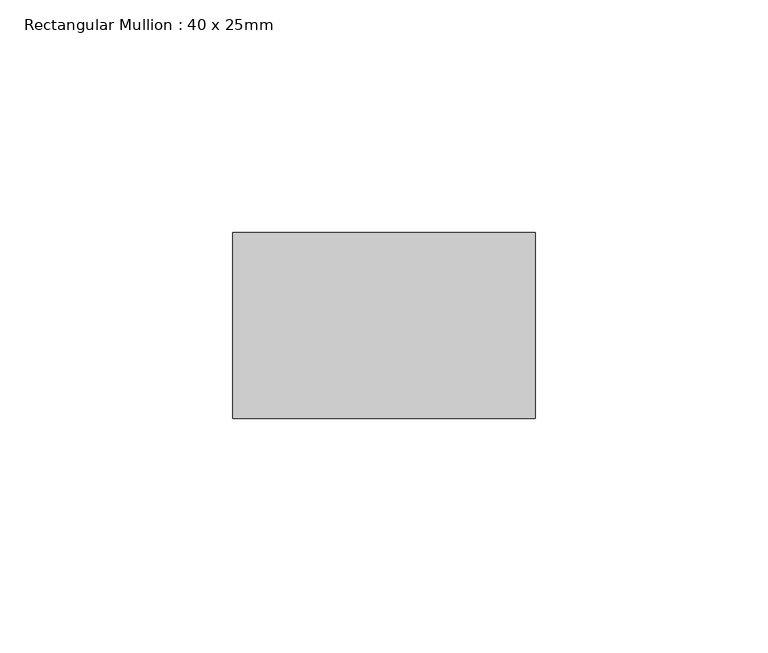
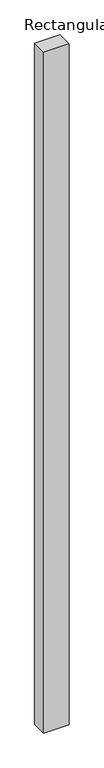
"""IFC4 building model written with IfcOpenShell, lengths in millimetres: member geometry, Rectangular Mullion : 40 x 25mm."""

from ifc_helpers import new_model, si_unit, frame, origin, place, context, project, spatial, polyline, outline, extrude, source, transform, mapped, element, save


def rectangular_mullion_40_x_25mm_f67cc44e(model_context):
    return source(origin(), model_context, "Body", "SweptSolid", [
        extrude(outline(polyline([(0.0, -20.0), (0.0, -60.0), (-65.0, -60.0), (-65.0, -20.0), (0.0, -20.0)])), frame((0.0, 0.0, -1841.2589444), z_axis=(0.0, 0.0, 1.0), x_axis=(1.0, 0.0, 0.0)), (0.0, 0.0, 1.0), 1841.2589444),
    ])


if __name__ == "__main__":
    model = new_model("IFC4")
    model_context = context("Model", 3, world=origin())
    ifc_project = project(units=[si_unit("LENGTHUNIT", "METRE", prefix="MILLI")], contexts=[model_context])
    site = spatial("IfcSite", under=ifc_project)
    building = spatial("IfcBuilding", under=site)
    placement = place(None, origin())
    rectangular_mullion_40_x_25mm_shape = rectangular_mullion_40_x_25mm_f67cc44e(model_context)
    element("IfcMember", 1, ObjectType="Rectangular Mullion : 40 x 25mm", at=placement, inside=building, context=model_context, shape_type="MappedRepresentation", body=[
        mapped(rectangular_mullion_40_x_25mm_shape, transform((0.0, 0.0, 0.0), x_axis=(1.0, 0.0, 0.0), y_axis=(0.0, 1.0, 0.0), z_axis=(0.0, 0.0, 1.0))),
    ])
    save(model, "model.ifc")
